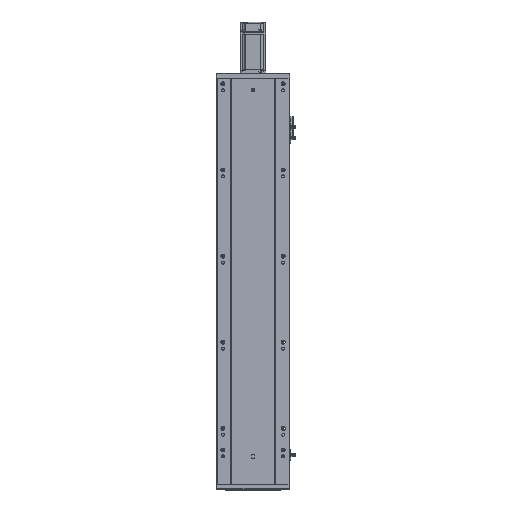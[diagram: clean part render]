
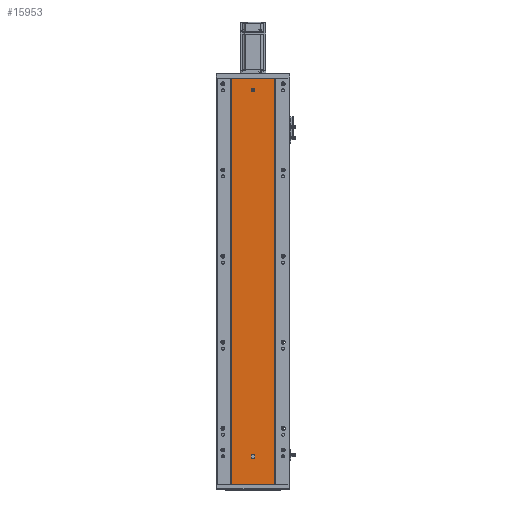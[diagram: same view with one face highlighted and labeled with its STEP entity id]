
A CAD part, front view. The second image highlights one B-rep face of the part: STEP entity #15953.
In plain terms, the highlighted planar face has unit normal (0, -1, 0).
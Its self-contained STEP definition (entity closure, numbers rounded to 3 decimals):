
#1529 = DIRECTION ( 'NONE',  ( 0., 1., 0. ) ) ;
#1591 = CARTESIAN_POINT ( 'NONE',  ( 185.97, 79.476, 944. ) ) ;
#1913 = VERTEX_POINT ( 'NONE', #13695 ) ;
#2528 = EDGE_CURVE ( 'NONE', #34705, #19033, #59066, .T. ) ;
#2827 = ORIENTED_EDGE ( 'NONE', *, *, #12118, .T. ) ;
#5743 = CARTESIAN_POINT ( 'NONE',  ( 0., 79.476, 944. ) ) ;
#5801 = DIRECTION ( 'NONE',  ( 0., 0., -1. ) ) ;
#6337 = PLANE ( 'NONE',  #30873 ) ;
#7144 = VERTEX_POINT ( 'NONE', #60963 ) ;
#8157 = CIRCLE ( 'NONE', #49213, 4. ) ;
#8739 = EDGE_CURVE ( 'NONE', #42203, #15368, #50384, .T. ) ;
#8759 = LINE ( 'NONE', #5743, #66441 ) ;
#9196 = CARTESIAN_POINT ( 'NONE',  ( 136.47, 79.476, 67.5 ) ) ;
#9546 = EDGE_LOOP ( 'NONE', ( #55820, #16277, #31363, #47247, #18851 ) ) ;
#12118 = EDGE_CURVE ( 'NONE', #47038, #25138, #58040, .T. ) ;
#13695 = CARTESIAN_POINT ( 'NONE',  ( 136.47, 79.476, 920. ) ) ;
#13786 = CARTESIAN_POINT ( 'NONE',  ( 140.47, 79.476, 64.5 ) ) ;
#14610 = CARTESIAN_POINT ( 'NONE',  ( 140.47, 79.476, 67.5 ) ) ;
#14996 = EDGE_CURVE ( 'NONE', #25138, #58000, #63916, .T. ) ;
#15368 = VERTEX_POINT ( 'NONE', #28677 ) ;
#15953 = ADVANCED_FACE ( 'NONE', ( #40704, #67958, #55512 ), #6337, .F. ) ;
#16260 = CARTESIAN_POINT ( 'NONE',  ( 185.97, 79.476, 0. ) ) ;
#16277 = ORIENTED_EDGE ( 'NONE', *, *, #59477, .F. ) ;
#16848 = DIRECTION ( 'NONE',  ( 0., 0., 1. ) ) ;
#17757 = AXIS2_PLACEMENT_3D ( 'NONE', #65273, #48723, #28387 ) ;
#18421 = ORIENTED_EDGE ( 'NONE', *, *, #55990, .F. ) ;
#18851 = ORIENTED_EDGE ( 'NONE', *, *, #55981, .F. ) ;
#19033 = VERTEX_POINT ( 'NONE', #25153 ) ;
#19396 = VECTOR ( 'NONE', #23010, 1000. ) ;
#21241 = AXIS2_PLACEMENT_3D ( 'NONE', #9196, #51514, #62134 ) ;
#22891 = DIRECTION ( 'NONE',  ( 0., 0., -1. ) ) ;
#23010 = DIRECTION ( 'NONE',  ( 1., 0., 0. ) ) ;
#23115 = DIRECTION ( 'NONE',  ( 0., -1., 0. ) ) ;
#23316 = CARTESIAN_POINT ( 'NONE',  ( 185.97, 79.476, 0. ) ) ;
#24171 = VERTEX_POINT ( 'NONE', #13786 ) ;
#25138 = VERTEX_POINT ( 'NONE', #44570 ) ;
#25153 = CARTESIAN_POINT ( 'NONE',  ( 132.47, 79.476, 67.5 ) ) ;
#25703 = EDGE_LOOP ( 'NONE', ( #55956, #18421, #39402, #2827 ) ) ;
#26956 = DIRECTION ( 'NONE',  ( 0., -1., 0. ) ) ;
#27445 = EDGE_CURVE ( 'NONE', #7144, #1913, #43564, .T. ) ;
#28387 = DIRECTION ( 'NONE',  ( 0., 0., -1. ) ) ;
#28433 = CIRCLE ( 'NONE', #17757, 4. ) ;
#28677 = CARTESIAN_POINT ( 'NONE',  ( 136.47, 79.476, 60.5 ) ) ;
#28998 = EDGE_CURVE ( 'NONE', #47038, #60815, #8759, .T. ) ;
#29279 = DIRECTION ( 'NONE',  ( 0., 0., 1. ) ) ;
#29606 = LINE ( 'NONE', #50709, #30395 ) ;
#30395 = VECTOR ( 'NONE', #40579, 1000. ) ;
#30873 = AXIS2_PLACEMENT_3D ( 'NONE', #48427, #1529, #16848 ) ;
#31363 = ORIENTED_EDGE ( 'NONE', *, *, #2528, .F. ) ;
#34705 = VERTEX_POINT ( 'NONE', #14610 ) ;
#35235 = EDGE_CURVE ( 'NONE', #1913, #7144, #8157, .T. ) ;
#35632 = B_SPLINE_CURVE_WITH_KNOTS ( 'NONE', 3,
 ( #1591, #53996, #65040, #23316 ),
 .UNSPECIFIED., .F., .F.,
 ( 4, 4 ),
 ( 0., 1. ),
 .UNSPECIFIED. ) ;
#36155 = CARTESIAN_POINT ( 'NONE',  ( 132.47, 79.476, 64.5 ) ) ;
#37333 = DIRECTION ( 'NONE',  ( 0., 0., -1. ) ) ;
#37469 = EDGE_CURVE ( 'NONE', #24171, #34705, #61429, .T. ) ;
#38164 = CARTESIAN_POINT ( 'NONE',  ( 136.47, 79.476, 916. ) ) ;
#39402 = ORIENTED_EDGE ( 'NONE', *, *, #28998, .F. ) ;
#39462 = AXIS2_PLACEMENT_3D ( 'NONE', #55150, #23115, #22891 ) ;
#40579 = DIRECTION ( 'NONE',  ( 0., 0., -1. ) ) ;
#40704 = FACE_BOUND ( 'NONE', #9546, .T. ) ;
#41729 = CARTESIAN_POINT ( 'NONE',  ( 86.97, 79.476, 0. ) ) ;
#41982 = ORIENTED_EDGE ( 'NONE', *, *, #27445, .F. ) ;
#42203 = VERTEX_POINT ( 'NONE', #36155 ) ;
#42340 = CARTESIAN_POINT ( 'NONE',  ( 86.97, 79.476, 944. ) ) ;
#42522 = DIRECTION ( 'NONE',  ( 1., 0., 0. ) ) ;
#42958 = CARTESIAN_POINT ( 'NONE',  ( 185.97, 79.476, 944. ) ) ;
#43100 = CARTESIAN_POINT ( 'NONE',  ( 0., 79.476, 0. ) ) ;
#43564 = CIRCLE ( 'NONE', #39462, 4. ) ;
#44510 = CARTESIAN_POINT ( 'NONE',  ( 86.97, 79.476, 629.333 ) ) ;
#44570 = CARTESIAN_POINT ( 'NONE',  ( 86.97, 79.476, 0. ) ) ;
#45011 = CARTESIAN_POINT ( 'NONE',  ( 140.47, 79.476, 67.5 ) ) ;
#45196 = AXIS2_PLACEMENT_3D ( 'NONE', #64256, #26956, #37333 ) ;
#47038 = VERTEX_POINT ( 'NONE', #42340 ) ;
#47247 = ORIENTED_EDGE ( 'NONE', *, *, #37469, .F. ) ;
#48111 = DIRECTION ( 'NONE',  ( 0., -1., 0. ) ) ;
#48427 = CARTESIAN_POINT ( 'NONE',  ( 0., 79.476, 944. ) ) ;
#48723 = DIRECTION ( 'NONE',  ( 0., -1., 0. ) ) ;
#49213 = AXIS2_PLACEMENT_3D ( 'NONE', #38164, #48111, #5801 ) ;
#49631 = ORIENTED_EDGE ( 'NONE', *, *, #35235, .F. ) ;
#50384 = CIRCLE ( 'NONE', #45196, 4. ) ;
#50456 = CARTESIAN_POINT ( 'NONE',  ( 86.97, 79.476, 944. ) ) ;
#50709 = CARTESIAN_POINT ( 'NONE',  ( 132.47, 79.476, 67.5 ) ) ;
#51514 = DIRECTION ( 'NONE',  ( 0., -1., 0. ) ) ;
#53996 = CARTESIAN_POINT ( 'NONE',  ( 185.97, 79.476, 629.333 ) ) ;
#55150 = CARTESIAN_POINT ( 'NONE',  ( 136.47, 79.476, 916. ) ) ;
#55512 = FACE_OUTER_BOUND ( 'NONE', #25703, .T. ) ;
#55820 = ORIENTED_EDGE ( 'NONE', *, *, #8739, .F. ) ;
#55956 = ORIENTED_EDGE ( 'NONE', *, *, #14996, .T. ) ;
#55981 = EDGE_CURVE ( 'NONE', #15368, #24171, #28433, .T. ) ;
#55990 = EDGE_CURVE ( 'NONE', #60815, #58000, #35632, .T. ) ;
#58000 = VERTEX_POINT ( 'NONE', #16260 ) ;
#58040 = B_SPLINE_CURVE_WITH_KNOTS ( 'NONE', 3,
 ( #50456, #44510, #60365, #41729 ),
 .UNSPECIFIED., .F., .F.,
 ( 4, 4 ),
 ( 0., 1. ),
 .UNSPECIFIED. ) ;
#59066 = CIRCLE ( 'NONE', #21241, 4. ) ;
#59477 = EDGE_CURVE ( 'NONE', #19033, #42203, #29606, .T. ) ;
#60365 = CARTESIAN_POINT ( 'NONE',  ( 86.97, 79.476, 314.667 ) ) ;
#60815 = VERTEX_POINT ( 'NONE', #42958 ) ;
#60963 = CARTESIAN_POINT ( 'NONE',  ( 136.47, 79.476, 912. ) ) ;
#61429 = LINE ( 'NONE', #45011, #63893 ) ;
#62134 = DIRECTION ( 'NONE',  ( 0., 0., -1. ) ) ;
#63893 = VECTOR ( 'NONE', #29279, 1000. ) ;
#63916 = LINE ( 'NONE', #43100, #19396 ) ;
#64080 = EDGE_LOOP ( 'NONE', ( #41982, #49631 ) ) ;
#64256 = CARTESIAN_POINT ( 'NONE',  ( 136.47, 79.476, 64.5 ) ) ;
#65040 = CARTESIAN_POINT ( 'NONE',  ( 185.97, 79.476, 314.667 ) ) ;
#65273 = CARTESIAN_POINT ( 'NONE',  ( 136.47, 79.476, 64.5 ) ) ;
#66441 = VECTOR ( 'NONE', #42522, 1000. ) ;
#67958 = FACE_BOUND ( 'NONE', #64080, .T. ) ;
